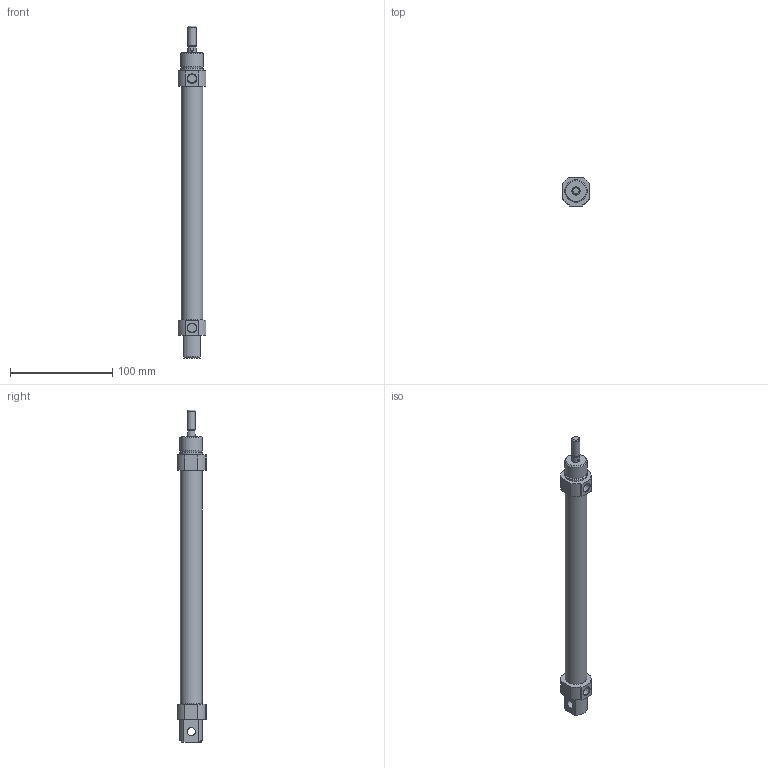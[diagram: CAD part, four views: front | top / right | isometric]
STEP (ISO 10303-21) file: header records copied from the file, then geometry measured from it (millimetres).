
FILE_DESCRIPTION((''),'2;1');
FILE_NAME('I:\3D電子目錄\氣缸\SDA\SDA20\SDA20\SDA20x200.stp','2007-08-06T10:31:37',('Administrator'),(''),'Autodesk Inventor 2008','Autodesk Inventor 2008','');
FILE_SCHEMA(('AUTOMOTIVE_DESIGN { 1 0 10303 214 1 1 1 1 }'));
Length unit declared in the file: millimetre
Products named in the file (1): SDA20X200
Bounding box: 27 x 28.5 x 325 mm (x, y, z)
Volume: 114053.5 mm3; surface area: 24357.5 mm2
Topology: 1 solids, 1 shells, 62 faces, 146 edges, 94 vertices
Faces by surface type: plane 30, cylinder 19, cone 10, bspline 2, torus 1
Full cylindrical faces by diameter (mm): 6.6 x1, 8 x3, 8.5 x2, 21.2 x1, 22 x2
Entity records: 1718 total; most frequent: CARTESIAN_POINT 307, DIRECTION 298, ORIENTED_EDGE 258, EDGE_CURVE 129, AXIS2_PLACEMENT_3D 116, VERTEX_POINT 93, EDGE_LOOP 88, VECTOR 66
